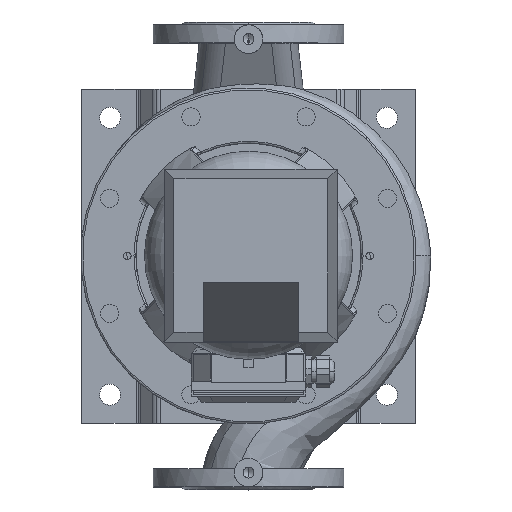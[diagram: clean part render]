
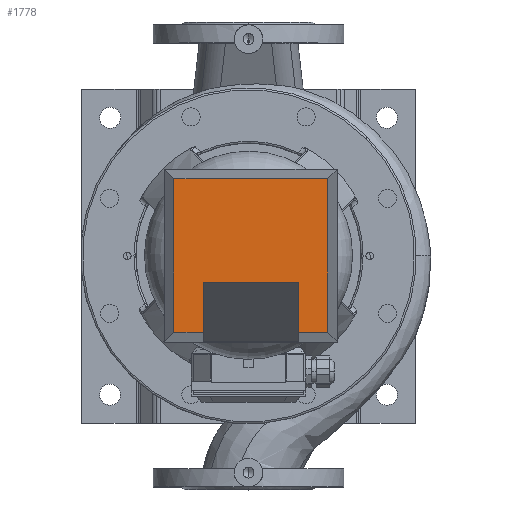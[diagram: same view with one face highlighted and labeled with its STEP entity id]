
A CAD part, top view. The second image highlights one B-rep face of the part: STEP entity #1778.
In plain terms, the highlighted planar face has unit normal (0, 0, 1) as drawn and (0, 1, 0) by its records, which use the part's own axes.
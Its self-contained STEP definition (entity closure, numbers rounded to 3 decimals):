
#1778=ADVANCED_FACE('',(#3317),#3318,.T.);
#1788=EDGE_CURVE('',#3330,#3333,#3334,.T.);
#3317=FACE_OUTER_BOUND('',#8468,.T.);
#3318=PLANE('',#8469);
#3330=VERTEX_POINT('',#8482);
#3333=VERTEX_POINT('',#8487);
#3334=LINE('',#8488,#8489);
#8468=EDGE_LOOP('',(#14670,#14671,#14672,#14673,#14674,#14675,#14676,#14677));
#8469=AXIS2_PLACEMENT_3D('',#14678,#14679,#14680);
#8482=CARTESIAN_POINT('',(50.0,114.0,118.64));
#8487=CARTESIAN_POINT('',(50.0,114.0,171.0));
#8488=CARTESIAN_POINT('',(50.0,114.0,90.179));
#8489=VECTOR('',#14706,1.0);
#14670=ORIENTED_EDGE('',*,*,#1788,.T.);
#14671=ORIENTED_EDGE('',*,*,#20456,.F.);
#14672=ORIENTED_EDGE('',*,*,#20464,.F.);
#14673=ORIENTED_EDGE('',*,*,#20466,.F.);
#14674=ORIENTED_EDGE('',*,*,#20458,.F.);
#14675=ORIENTED_EDGE('',*,*,#20452,.F.);
#14676=ORIENTED_EDGE('',*,*,#20445,.T.);
#14677=ORIENTED_EDGE('',*,*,#20448,.T.);
#14678=CARTESIAN_POINT('',(0.0,114.0,0.0));
#14679=DIRECTION('',(0.0,1.0,-0.0));
#14680=DIRECTION('',(-1.0,0.0,0.0));
#14706=DIRECTION('',(0.0,0.0,1.0));
#20445=EDGE_CURVE('',#34630,#34632,#34634,.T.);
#20448=EDGE_CURVE('',#34632,#3330,#34637,.T.);
#20452=EDGE_CURVE('',#34630,#34641,#34642,.T.);
#20456=EDGE_CURVE('',#34647,#3333,#34649,.T.);
#20458=EDGE_CURVE('',#34641,#34651,#34652,.T.);
#20464=EDGE_CURVE('',#34657,#34647,#34659,.T.);
#20466=EDGE_CURVE('',#34651,#34657,#34661,.T.);
#34630=VERTEX_POINT('',#42560);
#34632=VERTEX_POINT('',#42563);
#34634=LINE('',#42566,#42567);
#34637=LINE('',#42571,#42572);
#34641=VERTEX_POINT('',#42577);
#34642=LINE('',#42578,#42579);
#34647=VERTEX_POINT('',#42586);
#34649=LINE('',#42589,#42590);
#34651=VERTEX_POINT('',#42592);
#34652=LINE('',#42593,#42594);
#34657=VERTEX_POINT('',#42602);
#34659=LINE('',#42605,#42606);
#34661=LINE('',#42608,#42609);
#42560=CARTESIAN_POINT('',(-50.0,114.0,171.0));
#42563=CARTESIAN_POINT('',(-50.0,114.0,118.64));
#42566=CARTESIAN_POINT('',(-50.0,114.0,90.179));
#42567=VECTOR('',#50442,1.0);
#42571=CARTESIAN_POINT('',(25.0,114.0,118.64));
#42572=VECTOR('',#50444,1.0);
#42577=CARTESIAN_POINT('',(-80.5,114.0,171.0));
#42578=CARTESIAN_POINT('',(45.25,114.0,171.0));
#42579=VECTOR('',#50446,1.0);
#42586=CARTESIAN_POINT('',(80.5,114.0,171.0));
#42589=CARTESIAN_POINT('',(45.25,114.0,171.0));
#42590=VECTOR('',#50450,1.0);
#42592=CARTESIAN_POINT('',(-80.5,114.0,10.0));
#42593=CARTESIAN_POINT('',(-80.5,114.0,0.0));
#42594=VECTOR('',#50451,1.0);
#42602=CARTESIAN_POINT('',(80.5,114.0,10.0));
#42605=CARTESIAN_POINT('',(80.5,114.0,0.0));
#42606=VECTOR('',#50456,1.0);
#42608=CARTESIAN_POINT('',(45.25,114.0,10.0));
#42609=VECTOR('',#50457,1.0);
#50442=DIRECTION('',(-0.0,0.0,-1.0));
#50444=DIRECTION('',(1.0,-0.0,0.0));
#50446=DIRECTION('',(-1.0,0.0,-0.0));
#50450=DIRECTION('',(-1.0,0.0,-0.0));
#50451=DIRECTION('',(-0.0,-0.0,-1.0));
#50456=DIRECTION('',(-0.0,0.0,1.0));
#50457=DIRECTION('',(1.0,-0.0,-0.0));
